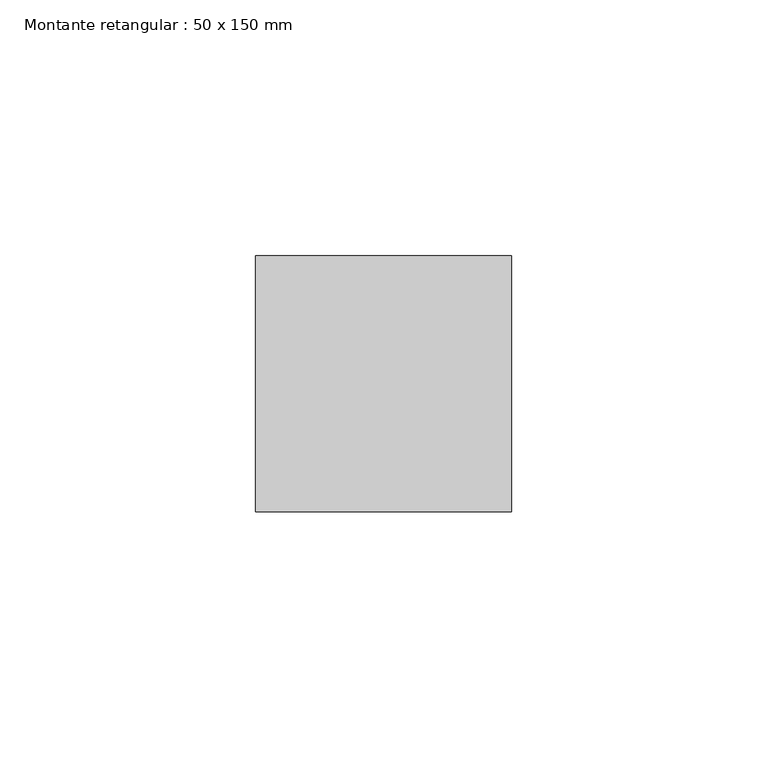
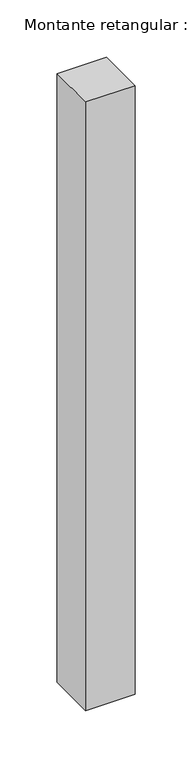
"""IFC4 building model written with IfcOpenShell, lengths in millimetres: member geometry, Montante retangular : 50 x 150 mm."""

import ifcopenshell
import ifcopenshell.guid

model = None  # the IFC model being written
_history = None  # IfcOwnerHistory: only IFC2X3 demands one
_inside = {}  # id of a spatial element -> (the spatial element, [elements in it])
_under = {}  # id of a project, library or spatial element -> (it, [spatial elements below it])
_declared = {}  # id of a project -> (the project, [libraries it declares])
_typed = {}  # id of a type object -> (the type object, [elements of that type])
_made_of = {}  # id of a material, layer set ... -> (it, [elements and type objects made of it])


def new_model(schema):
    """Start an empty IFC model of exactly this schema.

    Asked for "IFC4X3", IfcOpenShell would pick the latest addendum, in which some entities
    have other attributes; the version numbers below select the first issue.
    IFC2X3 requires an IfcOwnerHistory on every rooted entity: one is made here for all.
    """
    global model, _history
    if schema == "IFC4X3":
        model = ifcopenshell.file(schema_version=(4, 3, 0, 0))
    else:
        model = ifcopenshell.file(schema=schema)
    _inside.clear()
    _under.clear()
    _declared.clear()
    _typed.clear()
    _made_of.clear()
    _history = None
    if model.schema == "IFC2X3":
        org = make("IfcOrganization", Name="unknown")
        user = make(
            "IfcPersonAndOrganization",
            ThePerson=make("IfcPerson", FamilyName="unknown"),
            TheOrganization=org,
        )
        app = make(
            "IfcApplication",
            ApplicationDeveloper=org,
            Version="unknown",
            ApplicationFullName="unknown",
            ApplicationIdentifier="unknown",
        )
        _history = make(
            "IfcOwnerHistory",
            OwningUser=user,
            OwningApplication=app,
            ChangeAction="ADDED",
            CreationDate=0,
        )
    return model


def make(cls, **values):
    """One entity of the class cls with the attributes given. An attribute that is None is left unset."""
    return model.create_entity(
        cls, **{name: value for name, value in values.items() if value is not None}
    )


def rooted(cls, **values):
    """An entity with a GlobalId (a new one), such as an element, a storey or a relation."""
    return make(cls, GlobalId=ifcopenshell.guid.new(), OwnerHistory=_history, **values)


def si_unit(unit_type, name, prefix=None):
    """IfcSIUnit, for example si_unit("LENGTHUNIT", "METRE", prefix="MILLI")."""
    return make("IfcSIUnit", UnitType=unit_type, Prefix=prefix, Name=name)


def assignment(units):
    """IfcUnitAssignment: the units of a project."""
    return None if units is None else make("IfcUnitAssignment", Units=units)


def point(xyz):
    """IfcCartesianPoint."""
    return None if xyz is None else make("IfcCartesianPoint", Coordinates=xyz)


def direction(xyz):
    """IfcDirection."""
    return None if xyz is None else make("IfcDirection", DirectionRatios=xyz)


def frame(location, z_axis=None, x_axis=None):
    """IfcAxis2Placement3D, a coordinate frame: its origin and axes. An axis left out is left unset."""
    return make(
        "IfcAxis2Placement3D",
        Location=point(location),
        Axis=direction(z_axis),
        RefDirection=direction(x_axis),
    )


def origin():
    """The frame at (0, 0, 0) with its axes left unset."""
    return frame((0.0, 0.0, 0.0))


def place(relative_to, where):
    """IfcLocalPlacement: puts the frame where relative to a parent placement (None: the world)."""
    return make(
        "IfcLocalPlacement", PlacementRelTo=relative_to, RelativePlacement=where
    )


def context(
    kind, dimensions, precision=None, world=None, true_north=None, identifier=None
):
    """IfcGeometricRepresentationContext, for example the 3D "Model" context."""
    return make(
        "IfcGeometricRepresentationContext",
        ContextIdentifier=identifier,
        ContextType=kind,
        CoordinateSpaceDimension=dimensions,
        Precision=precision,
        WorldCoordinateSystem=world,
        TrueNorth=true_north,
    )


def project(units=None, contexts=None):
    """IfcProject with its units and contexts."""
    return rooted(
        "IfcProject",
        Name="project",
        RepresentationContexts=contexts,
        UnitsInContext=assignment(units),
    )


def spatial(cls, under=None, at=None, **own):
    """A site, building, storey or space (cls), placed at a placement, below another one or the project."""
    s = rooted(cls, ObjectPlacement=at, **own)
    if under is not None:
        _under.setdefault(under.id(), (under, []))[1].append(s)
    return s


def polyline(points):
    """IfcPolyline through the points."""
    return make("IfcPolyline", Points=[point(p) for p in points])


def outline(outer, holes=None, kind="AREA"):
    """IfcArbitraryClosedProfileDef: a profile drawn as a closed curve; with holes, ...WithVoids."""
    if holes is None:
        return make("IfcArbitraryClosedProfileDef", ProfileType=kind, OuterCurve=outer)
    return make(
        "IfcArbitraryProfileDefWithVoids",
        ProfileType=kind,
        OuterCurve=outer,
        InnerCurves=holes,
    )


def extrude(swept, where, along, depth):
    """IfcExtrudedAreaSolid: the profile swept, set in the frame where, extruded along a direction by depth."""
    return make(
        "IfcExtrudedAreaSolid",
        SweptArea=swept,
        Position=where,
        ExtrudedDirection=direction(along),
        Depth=depth,
    )


def shape(context_of_items, identifier, shape_type, items):
    """IfcShapeRepresentation: the items that make up one representation, for example the "Body"."""
    return make(
        "IfcShapeRepresentation",
        ContextOfItems=context_of_items,
        RepresentationIdentifier=identifier,
        RepresentationType=shape_type,
        Items=items,
    )


def source(mapping_origin, context_of_items, identifier, shape_type, items):
    """IfcRepresentationMap: a shape defined once, which mapped items show again and again."""
    return make(
        "IfcRepresentationMap",
        MappingOrigin=mapping_origin,
        MappedRepresentation=shape(context_of_items, identifier, shape_type, items),
    )


def transform(
    local_origin,
    x_axis=None,
    y_axis=None,
    z_axis=None,
    scale=None,
    scale2=None,
    scale3=None,
    uniform=True,
):
    """IfcCartesianTransformationOperator3D, or its non-uniform kind. x_axis, y_axis, z_axis: its Axis1, 2, 3."""
    if uniform:
        return make(
            "IfcCartesianTransformationOperator3D",
            Axis1=direction(x_axis),
            Axis2=direction(y_axis),
            LocalOrigin=point(local_origin),
            Scale=scale,
            Axis3=direction(z_axis),
        )
    return make(
        "IfcCartesianTransformationOperator3DnonUniform",
        Axis1=direction(x_axis),
        Axis2=direction(y_axis),
        LocalOrigin=point(local_origin),
        Scale=scale,
        Axis3=direction(z_axis),
        Scale2=scale2,
        Scale3=scale3,
    )


def mapped(mapping_source, mapping_target):
    """IfcMappedItem: shows the shape of a source again, moved by a transform."""
    return make(
        "IfcMappedItem", MappingSource=mapping_source, MappingTarget=mapping_target
    )


def made_of(thing, what):
    """Note that an element or type object is made of a material, layer set ...; save() writes the relation."""
    if what is not None:
        _made_of.setdefault(what.id(), (what, []))[1].append(thing)
    return thing


def element(
    cls,
    number,
    at=None,
    inside=None,
    cuts=None,
    type_object=None,
    material=None,
    context=None,
    identifier="Body",
    shape_type=None,
    held_by="IfcProductDefinitionShape",
    body=None,
    shapes=None,
    **own,
):
    """One element of the class cls, such as IfcWall. Its Tag is "e" and its number.

    at: its placement. inside: the storey or other place that contains it. cuts: it is an
    opening in that element (IfcRelVoidsElement). A single representation is given by context,
    identifier, shape_type and body (its items); several are given by shapes. held_by: the class
    of the entity that holds the representations. save() writes the other relations.
    """
    e = rooted(cls, Tag="e%d" % number, ObjectPlacement=at, **own)
    if body is not None:
        shapes = [shape(context, identifier, shape_type, body)]
    if shapes is not None:
        e.Representation = make(held_by, Representations=shapes)
    if inside is not None:
        _inside.setdefault(inside.id(), (inside, []))[1].append(e)
    if cuts is not None:
        rooted(
            "IfcRelVoidsElement", RelatingBuildingElement=cuts, RelatedOpeningElement=e
        )
    if type_object is not None:
        _typed.setdefault(type_object.id(), (type_object, []))[1].append(e)
    return made_of(e, material)


def aggregate(whole, parts):
    """IfcRelAggregates: a whole, such as a stair, and the parts it consists of."""
    return rooted("IfcRelAggregates", RelatingObject=whole, RelatedObjects=parts)


def save(model, path):
    """Write the relations noted so far, then the file.

    IfcRelAggregates (storeys below a building ...), IfcRelContainedInSpatialStructure (elements
    in a storey), IfcRelDefinesByType, IfcRelAssociatesMaterial and IfcRelDeclares: one each for
    every whole, place, type object, material and project.
    """
    for whole, parts in _under.values():
        aggregate(whole, parts)
    for where, things in _inside.values():
        rooted(
            "IfcRelContainedInSpatialStructure",
            RelatedElements=things,
            RelatingStructure=where,
        )
    for kind, things in _typed.values():
        rooted("IfcRelDefinesByType", RelatedObjects=things, RelatingType=kind)
    for what, things in _made_of.values():
        rooted("IfcRelAssociatesMaterial", RelatedObjects=things, RelatingMaterial=what)
    for by, libraries in _declared.values():
        rooted("IfcRelDeclares", RelatingContext=by, RelatedDefinitions=libraries)
    model.write(path)


def montante_retangular_50_x_150_mm_e5e6000e(model_context):
    return source(origin(), model_context, "Body", "SweptSolid", [
        extrude(outline(polyline([(25.0, 25.0), (25.0, -25.0), (-25.0, -25.0), (-25.0, 25.0), (25.0, 25.0)])), frame((0.0, 0.0, -650.0), z_axis=(0.0, 0.0, 1.0), x_axis=(1.0, 0.0, 0.0)), (0.0, 0.0, 1.0), 650.0),
    ])


if __name__ == "__main__":
    model = new_model("IFC4")
    model_context = context("Model", 3, world=origin())
    ifc_project = project(units=[si_unit("LENGTHUNIT", "METRE", prefix="MILLI")], contexts=[model_context])
    site = spatial("IfcSite", under=ifc_project)
    building = spatial("IfcBuilding", under=site)
    placement = place(None, origin())
    montante_retangular_50_x_150_mm_shape = montante_retangular_50_x_150_mm_e5e6000e(model_context)
    element("IfcMember", 1, ObjectType="Montante retangular : 50 x 150 mm", at=placement, inside=building, context=model_context, shape_type="MappedRepresentation", body=[
        mapped(montante_retangular_50_x_150_mm_shape, transform((0.0, 0.0, 0.0), x_axis=(1.0, 0.0, 0.0), y_axis=(0.0, 1.0, 0.0), z_axis=(0.0, 0.0, 1.0))),
    ])
    save(model, "model.ifc")
